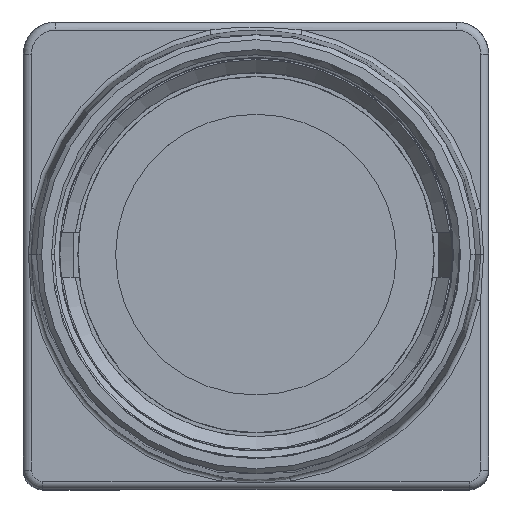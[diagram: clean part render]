
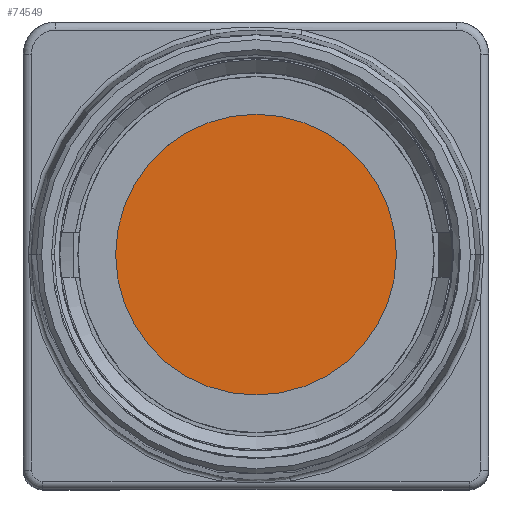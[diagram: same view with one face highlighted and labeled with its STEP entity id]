
A CAD part, top view. The second image highlights one B-rep face of the part: STEP entity #74549.
In plain terms, the highlighted planar face has unit normal (0, 0, 1).
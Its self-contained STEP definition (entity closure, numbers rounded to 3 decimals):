
#32353=CARTESIAN_POINT('',(0.,0.5,-2.45));
#32354=DIRECTION('',(0.,0.,-1.));
#32355=DIRECTION('',(-1.,0.,0.));
#32356=AXIS2_PLACEMENT_3D('',#32353,#32354,#32355);
#32361=CARTESIAN_POINT('',(0.,0.5,-2.45));
#32362=DIRECTION('',(0.,0.,-1.));
#32363=DIRECTION('',(1.,0.,0.));
#32364=AXIS2_PLACEMENT_3D('',#32361,#32362,#32363);
#45891=CARTESIAN_POINT('',(-10.9,0.5,-2.45));
#45892=CARTESIAN_POINT('',(10.9,0.5,-2.45));
#45893=VERTEX_POINT('',#45891);
#45894=VERTEX_POINT('',#45892);
#74540=CARTESIAN_POINT('',(0.,0.5,-2.45));
#74541=DIRECTION('',(0.,0.,1.));
#74542=DIRECTION('',(1.,0.,0.));
#74543=AXIS2_PLACEMENT_3D('',#74540,#74541,#74542);
#74544=PLANE('',#74543);
#74545=ORIENTED_EDGE('',*,*,#74520,.T.);
#74546=ORIENTED_EDGE('',*,*,#74534,.T.);
#74547=EDGE_LOOP('',(#74545,#74546));
#74548=FACE_OUTER_BOUND('',#74547,.F.);
#74549=ADVANCED_FACE('',(#74548),#74544,.T.);
#32357=CIRCLE('',#32356,10.9);
#32365=CIRCLE('',#32364,10.9);
#74520=EDGE_CURVE('',#45893,#45894,#32357,.T.);
#74534=EDGE_CURVE('',#45894,#45893,#32365,.T.);
